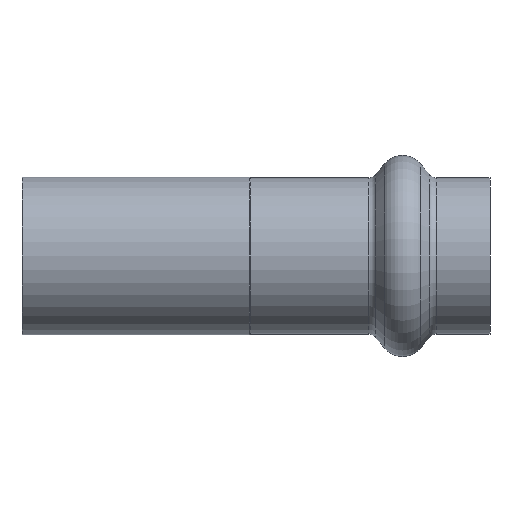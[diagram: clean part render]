
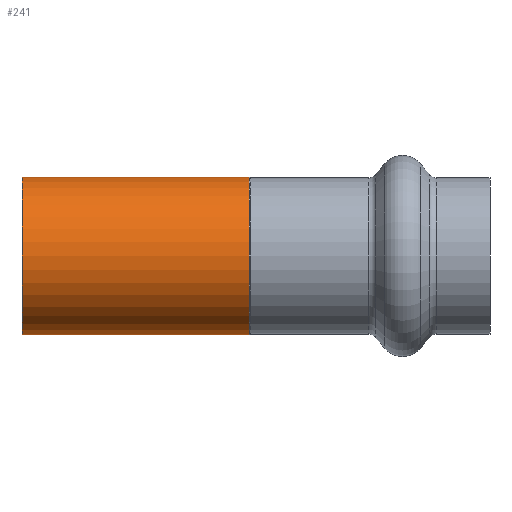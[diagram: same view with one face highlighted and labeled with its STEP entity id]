
A CAD part, front view. The second image highlights one B-rep face of the part: STEP entity #241.
In plain terms, the highlighted cylindrical face has radius 9 mm (diameter 18 mm), a partial arc.
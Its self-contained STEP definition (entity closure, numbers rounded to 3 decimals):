
#126 = EDGE_CURVE ( 'NONE', #1046, #911, #584, .T. ) ;
#178 = ORIENTED_EDGE ( 'NONE', *, *, #742, .T. ) ;
#185 = AXIS2_PLACEMENT_3D ( 'NONE', #986, #481, #901 ) ;
#192 = CARTESIAN_POINT ( 'NONE',  ( 0., 0., 9. ) ) ;
#213 = CARTESIAN_POINT ( 'NONE',  ( 0., 0., 0. ) ) ;
#220 = VERTEX_POINT ( 'NONE', #841 ) ;
#241 = ADVANCED_FACE ( 'NONE', ( #440 ), #656, .T. ) ;
#248 = EDGE_CURVE ( 'NONE', #1046, #220, #422, .T. ) ;
#297 = DIRECTION ( 'NONE',  ( 0., 0., 1. ) ) ;
#325 = ORIENTED_EDGE ( 'NONE', *, *, #126, .T. ) ;
#422 = LINE ( 'NONE', #910, #848 ) ;
#428 = VERTEX_POINT ( 'NONE', #192 ) ;
#440 = FACE_OUTER_BOUND ( 'NONE', #751, .T. ) ;
#481 = DIRECTION ( 'NONE',  ( -1., 0., 0. ) ) ;
#501 = CARTESIAN_POINT ( 'NONE',  ( -4.079, 0., 0. ) ) ;
#504 = VECTOR ( 'NONE', #552, 1000. ) ;
#552 = DIRECTION ( 'NONE',  ( -1., 0., 0. ) ) ;
#576 = CARTESIAN_POINT ( 'NONE',  ( 26., 0., 9. ) ) ;
#584 = CIRCLE ( 'NONE', #185, 9. ) ;
#656 = CYLINDRICAL_SURFACE ( 'NONE', #818, 9. ) ;
#666 = CIRCLE ( 'NONE', #940, 9. ) ;
#734 = LINE ( 'NONE', #924, #504 ) ;
#742 = EDGE_CURVE ( 'NONE', #911, #428, #734, .T. ) ;
#751 = EDGE_LOOP ( 'NONE', ( #1030, #325, #178, #887 ) ) ;
#812 = DIRECTION ( 'NONE',  ( -1., 0., 0. ) ) ;
#818 = AXIS2_PLACEMENT_3D ( 'NONE', #501, #894, #930 ) ;
#841 = CARTESIAN_POINT ( 'NONE',  ( 0., 0., -9. ) ) ;
#848 = VECTOR ( 'NONE', #1009, 1000. ) ;
#886 = CARTESIAN_POINT ( 'NONE',  ( 26., 0., -9. ) ) ;
#887 = ORIENTED_EDGE ( 'NONE', *, *, #1035, .F. ) ;
#894 = DIRECTION ( 'NONE',  ( -1., 0., 0. ) ) ;
#901 = DIRECTION ( 'NONE',  ( 0., 0., 1. ) ) ;
#910 = CARTESIAN_POINT ( 'NONE',  ( -4.079, 0., -9. ) ) ;
#911 = VERTEX_POINT ( 'NONE', #576 ) ;
#924 = CARTESIAN_POINT ( 'NONE',  ( -4.079, 0., 9. ) ) ;
#930 = DIRECTION ( 'NONE',  ( 0., 0., 1. ) ) ;
#940 = AXIS2_PLACEMENT_3D ( 'NONE', #213, #812, #297 ) ;
#986 = CARTESIAN_POINT ( 'NONE',  ( 26., 0., 0. ) ) ;
#1009 = DIRECTION ( 'NONE',  ( -1., 0., 0. ) ) ;
#1030 = ORIENTED_EDGE ( 'NONE', *, *, #248, .F. ) ;
#1035 = EDGE_CURVE ( 'NONE', #220, #428, #666, .T. ) ;
#1046 = VERTEX_POINT ( 'NONE', #886 ) ;
